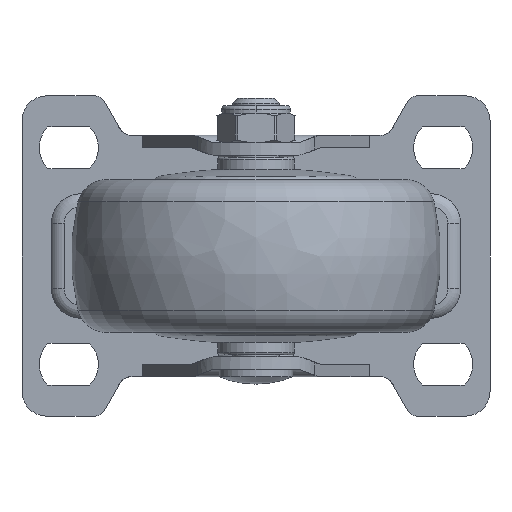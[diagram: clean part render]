
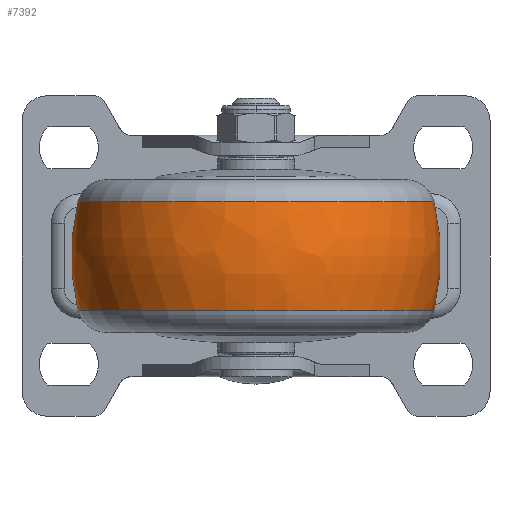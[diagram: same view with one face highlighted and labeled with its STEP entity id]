
A CAD part, front view. The second image highlights one B-rep face of the part: STEP entity #7392.
In plain terms, the highlighted free-form (B-spline) face has degree [3, 3] with [7, 4] control points.
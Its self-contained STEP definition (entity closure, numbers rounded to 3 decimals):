
#6701=CARTESIAN_POINT('',(-10.962,0.,0.));
#6702=DIRECTION('',(-1.,0.,0.));
#6703=DIRECTION('',(0.,1.,0.));
#6704=AXIS2_PLACEMENT_3D('',#6701,#6702,#6703);
#6716=CARTESIAN_POINT('',(0.,-7.5,0.));
#6717=DIRECTION('',(0.,0.,1.));
#6718=DIRECTION('',(0.244,0.97,0.));
#6719=AXIS2_PLACEMENT_3D('',#6716,#6717,#6718);
#6721=CARTESIAN_POINT('',(0.,7.5,0.));
#6722=DIRECTION('',(0.,0.,-1.));
#6723=DIRECTION('',(0.244,-0.97,0.));
#6724=AXIS2_PLACEMENT_3D('',#6721,#6722,#6723);
#6726=CARTESIAN_POINT('',(10.962,0.,0.));
#6727=DIRECTION('',(-1.,0.,0.));
#6728=DIRECTION('',(0.,1.,0.));
#6729=AXIS2_PLACEMENT_3D('',#6726,#6727,#6728);
#6966=CARTESIAN_POINT('',(10.962,36.145,0.));
#6968=VERTEX_POINT('',#6966);
#6969=CARTESIAN_POINT('',(-10.962,36.145,0.));
#6970=VERTEX_POINT('',#6969);
#7014=CARTESIAN_POINT('',(10.962,-36.145,0.));
#7016=VERTEX_POINT('',#7014);
#7017=CARTESIAN_POINT('',(-10.962,-36.145,0.));
#7018=VERTEX_POINT('',#7017);
#7356=CARTESIAN_POINT('',(-11.391,-35.963,
2.263));
#7357=CARTESIAN_POINT('',(-3.881,-37.924,
2.386));
#7358=CARTESIAN_POINT('',(3.881,-37.924,2.386));
#7359=CARTESIAN_POINT('',(11.391,-35.963,2.263));
#7360=CARTESIAN_POINT('',(-11.391,-37.356,
-19.869));
#7361=CARTESIAN_POINT('',(-3.881,-39.393,
-20.953));
#7362=CARTESIAN_POINT('',(3.881,-39.393,
-20.953));
#7363=CARTESIAN_POINT('',(11.391,-37.356,
-19.869));
#7364=CARTESIAN_POINT('',(-11.391,-22.176,
-36.035));
#7365=CARTESIAN_POINT('',(-3.881,-23.385,
-37.999));
#7366=CARTESIAN_POINT('',(3.881,-23.385,
-37.999));
#7367=CARTESIAN_POINT('',(11.391,-22.176,
-36.035));
#7368=CARTESIAN_POINT('',(-11.391,0.,-36.035));
#7369=CARTESIAN_POINT('',(-3.881,0.,-37.999));
#7370=CARTESIAN_POINT('',(3.881,0.,-37.999));
#7371=CARTESIAN_POINT('',(11.391,0.,-36.035));
#7372=CARTESIAN_POINT('',(-11.391,22.176,
-36.035));
#7373=CARTESIAN_POINT('',(-3.881,23.385,
-37.999));
#7374=CARTESIAN_POINT('',(3.881,23.385,-37.999));
#7375=CARTESIAN_POINT('',(11.391,22.176,-36.035));
#7376=CARTESIAN_POINT('',(-11.391,37.356,
-19.869));
#7377=CARTESIAN_POINT('',(-3.881,39.393,
-20.953));
#7378=CARTESIAN_POINT('',(3.881,39.393,-20.953));
#7379=CARTESIAN_POINT('',(11.391,37.356,-19.869));
#7380=CARTESIAN_POINT('',(-11.391,35.963,2.263));
#7381=CARTESIAN_POINT('',(-3.881,37.924,2.386));
#7382=CARTESIAN_POINT('',(3.881,37.924,2.386));
#7383=CARTESIAN_POINT('',(11.391,35.963,2.263));
#7384=(BOUNDED_SURFACE()B_SPLINE_SURFACE(3,3,((#7356,#7357,#7358,#7359),(#7360,
#7361,#7362,#7363),(#7364,#7365,#7366,#7367),(#7368,#7369,#7370,#7371),(#7372,
#7373,#7374,#7375),(#7376,#7377,#7378,#7379),(#7380,#7381,#7382,#7383)),
.UNSPECIFIED.,.F.,.F.,.F.)B_SPLINE_SURFACE_WITH_KNOTS((4,3,4),(4,4),(0.,1.,
2.),(0.,1.),.UNSPECIFIED.)GEOMETRIC_REPRESENTATION_ITEM()RATIONAL_B_SPLINE_SURFACE(((1.207,1.181,1.181,1.207),(
0.953,0.932,0.932,0.953),(
0.953,0.932,0.932,0.953),(
1.207,1.181,1.181,1.207),(
0.953,0.932,0.932,0.953),(
0.953,0.932,0.932,0.953),(
1.207,1.181,1.181,1.207)))REPRESENTATION_ITEM('')SURFACE());
#7385=ORIENTED_EDGE('',*,*,#7346,.T.);
#7386=ORIENTED_EDGE('',*,*,#7299,.T.);
#7387=ORIENTED_EDGE('',*,*,#7350,.F.);
#7389=ORIENTED_EDGE('',*,*,#7388,.F.);
#7390=EDGE_LOOP('',(#7385,#7386,#7387,#7389));
#7391=FACE_OUTER_BOUND('',#7390,.F.);
#6705=CIRCLE('',#6704,36.145);
#6720=CIRCLE('',#6719,45.);
#6725=CIRCLE('',#6724,45.);
#6730=CIRCLE('',#6729,36.145);
#7299=EDGE_CURVE('',#6970,#7018,#6705,.T.);
#7346=EDGE_CURVE('',#6968,#6970,#6720,.T.);
#7350=EDGE_CURVE('',#7016,#7018,#6725,.T.);
#7388=EDGE_CURVE('',#6968,#7016,#6730,.T.);
#7392=ADVANCED_FACE('',(#7391),#7384,.T.);
